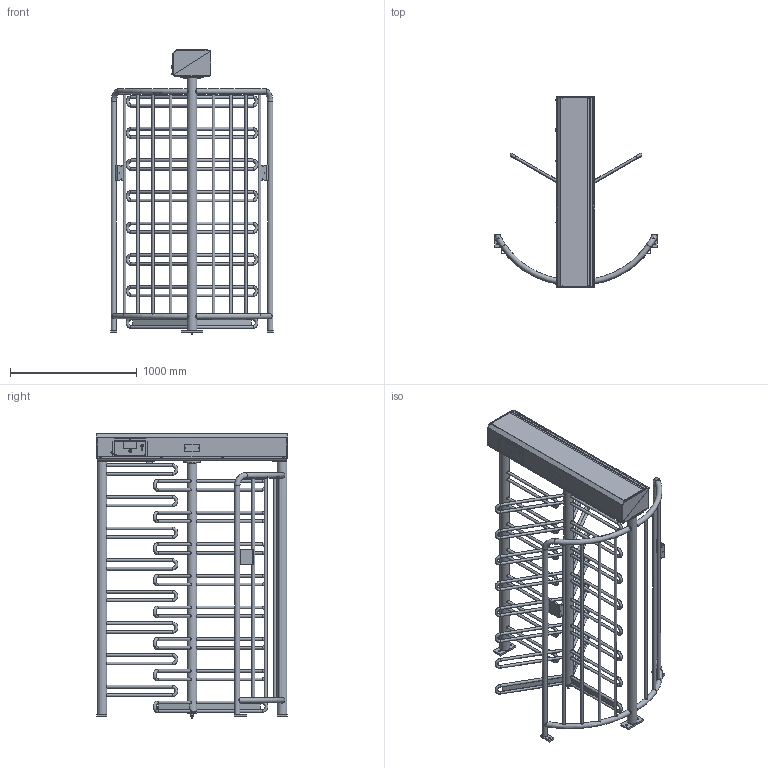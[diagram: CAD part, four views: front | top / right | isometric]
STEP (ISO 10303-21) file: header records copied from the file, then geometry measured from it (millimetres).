
FILE_DESCRIPTION(/* description */ ('Unknown'),/* implementation_level */ '2;1');
FILE_NAME(/* name */ '55870024_00',/* time_stamp */ '2026-04-23T09:51:47+02:00',/* author */ ('Unknown'),/* organization */ ('Unknown'),/* preprocessor_version */ 'ST-DEVELOPER v18.104',/* originating_system */ 'Solid Edge',/* authorisation */ 'Unknown');
FILE_SCHEMA (('AUTOMOTIVE_DESIGN {1 0 10303 214 3 1 1}'));
Products named in the file (1): 55870024
Bounding box: 1287.9 x 1510 x 2252.99 mm (x, y, z)
Volume: 22818027.6 mm3; surface area: 15126739 mm2
Topology: 160 solids, 160 shells, 2480 faces, 6042 edges, 3917 vertices
Faces by surface type: plane 1389, cylinder 674, cone 289, torus 123, bspline 4, sphere 1
Full cylindrical faces by diameter (mm): 0.1 x9, 1.7 x2, 2 x1, 3 x2, 3.3 x3, 4 x5, 4.019 x4, 4.2 x5, 4.3 x6, 4.4 x3, 4.5 x4, 5 x13, 5.3 x4, 5.5 x10, 5.9 x2, 6 x9, 6.5 x1, 6.8 x3, 7 x7, 7.5 x2, 8 x9, 8.16 x1, 8.376 x2, 8.5 x58, 9 x6, 10 x5, 10.106 x8, 10.156 x8, 10.2 x1, 10.5 x1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
Entity records: 95072 total; most frequent: CARTESIAN_POINT 39374, DIRECTION 10852, ORIENTED_EDGE 9884, EDGE_CURVE 4942, AXIS2_PLACEMENT_3D 4223, FACE_BOUND 3973, EDGE_LOOP 3966, VERTEX_POINT 3657
